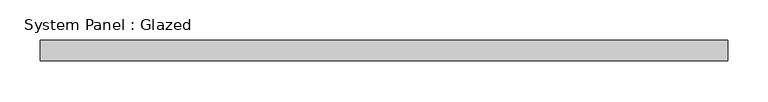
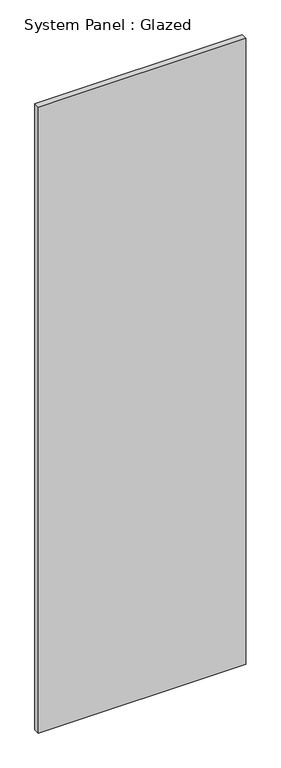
"""IFC4 building model written with IfcOpenShell, lengths in millimetres: plate geometry, System Panel : Glazed."""

from ifc_helpers import new_model, si_unit, origin, origin_with_axes, place, context, project, spatial, polyline, outline, extrude, source, transform, mapped, element, save


def system_panel_glazed_6d8c8de5(model_context):
    return source(origin(), model_context, "Body", "SweptSolid", [
        extrude(outline(polyline([(425.45, -44.45), (-425.45, -44.45), (-425.45, -19.05), (425.45, -19.05), (425.45, -44.45)])), origin_with_axes(), (0.0, 0.0, 1.0), 2717.8),
    ])


if __name__ == "__main__":
    model = new_model("IFC4")
    model_context = context("Model", 3, world=origin())
    ifc_project = project(units=[si_unit("LENGTHUNIT", "METRE", prefix="MILLI")], contexts=[model_context])
    site = spatial("IfcSite", under=ifc_project)
    building = spatial("IfcBuilding", under=site)
    placement = place(None, origin())
    system_panel_glazed_shape = system_panel_glazed_6d8c8de5(model_context)
    element("IfcPlate", 1, ObjectType="System Panel : Glazed", at=placement, inside=building, context=model_context, shape_type="MappedRepresentation", body=[
        mapped(system_panel_glazed_shape, transform((0.0, 0.0, 0.0), x_axis=(1.0, 0.0, 0.0), y_axis=(0.0, 1.0, 0.0), z_axis=(0.0, 0.0, 1.0))),
    ])
    save(model, "model.ifc")
